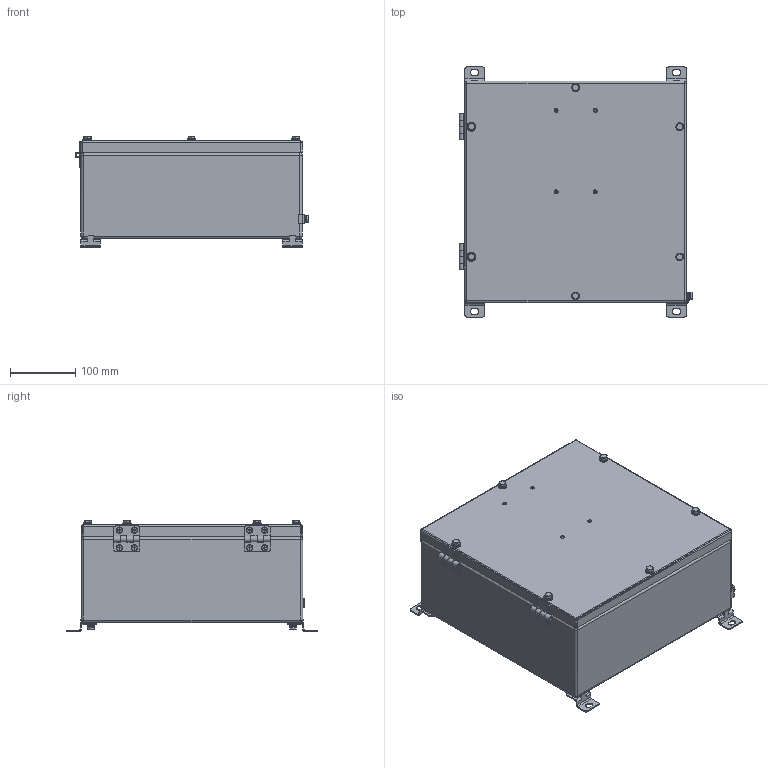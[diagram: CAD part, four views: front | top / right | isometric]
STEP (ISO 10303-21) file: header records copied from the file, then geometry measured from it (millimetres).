
FILE_DESCRIPTION((''),'2;1');
FILE_NAME('\\192.168.5.25\cortem_klient\INVENTOR БАЗА МОДЕЛЕЙ\Актуальная база моделей для отдела продаж\КСРВ-М\КСРВ-М343415_М3.stp','2019-04-09T14:41:54',('A.S.Kozlov'),(''),'Autodesk Inventor 2012','Autodesk Inventor 2012','');
FILE_SCHEMA(('CONFIG_CONTROL_DESIGN'));
Length unit declared in the file: millimetre
Products named in the file (1): КСРВ-(параметрическая модель)_Внешний контур_1
Bounding box: 359.19 x 384 x 171.2 mm (x, y, z)
Surface area: 608594.8 mm2 (no closed solid volume)
Topology: 0 solids, 81 shells, 336 faces, 1289 edges, 957 vertices
Faces by surface type: plane 190, cylinder 128, sphere 12, cone 6
Full cylindrical faces by diameter (mm): 5.9 x4, 10 x4, 12 x9, 14 x2
Entity records: 14024 total; most frequent: CARTESIAN_POINT 2727, DIRECTION 2317, ORIENTED_EDGE 1760, EDGE_CURVE 1251, VERTEX_POINT 947, AXIS2_PLACEMENT_3D 825, VECTOR 667, LINE 667
